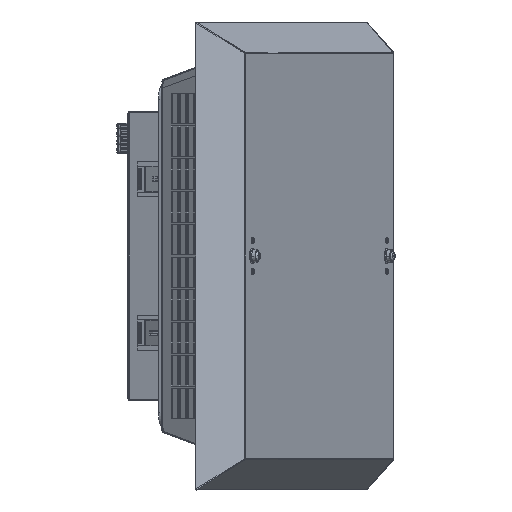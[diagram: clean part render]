
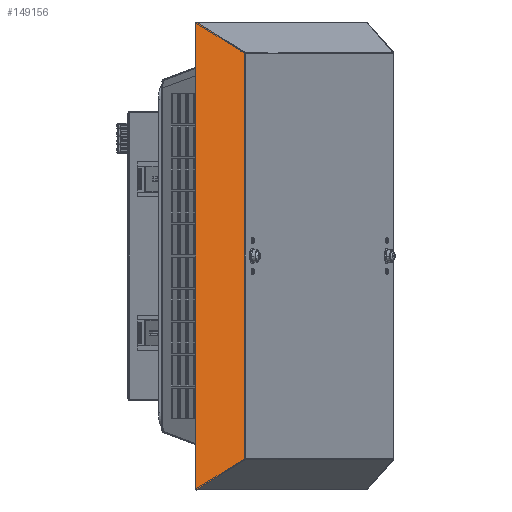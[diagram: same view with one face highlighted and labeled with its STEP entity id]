
A CAD part, front view. The second image highlights one B-rep face of the part: STEP entity #149156.
In plain terms, the highlighted planar face has unit normal (0.268, -0.963, 0) as drawn and (0.799, 0.602, 0) by its records, which use the part's own axes.
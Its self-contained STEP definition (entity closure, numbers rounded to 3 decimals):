
#147836=DIRECTION('',(0.,0.,1.));
#147837=VECTOR('',#147836,398.653);
#147838=CARTESIAN_POINT('',(198.958,39.204,
-199.326));
#147839=LINE('',#147838,#147837);
#147856=CARTESIAN_POINT('',(198.958,39.204,
-199.326));
#147858=DIRECTION('',(-0.516,0.684,-0.516));
#147859=VECTOR('',#147858,56.69);
#147860=CARTESIAN_POINT('',(228.19,0.412,
228.558));
#147861=LINE('',#147860,#147859);
#147862=DIRECTION('',(0.516,-0.684,-0.516));
#147863=VECTOR('',#147862,56.69);
#147864=CARTESIAN_POINT('',(198.958,39.204,
-199.326));
#147865=LINE('',#147864,#147863);
#147866=DIRECTION('',(0.31,-0.412,0.857));
#147867=VECTOR('',#147866,1.);
#147868=CARTESIAN_POINT('',(228.19,0.412,
-228.558));
#147869=LINE('',#147868,#147867);
#147870=DIRECTION('',(-0.31,0.412,0.857));
#147871=VECTOR('',#147870,1.);
#147872=CARTESIAN_POINT('',(228.5,0.,
227.701));
#147873=LINE('',#147872,#147871);
#147898=DIRECTION('',(0.,0.,-1.));
#147899=VECTOR('',#147898,455.403);
#147900=CARTESIAN_POINT('',(228.5,0.,
227.701));
#147901=LINE('',#147900,#147899);
#148325=VERTEX_POINT('',#147856);
#148327=CARTESIAN_POINT('',(198.958,39.204,
199.326));
#148328=VERTEX_POINT('',#148327);
#148329=CARTESIAN_POINT('',(228.19,0.412,
228.558));
#148330=VERTEX_POINT('',#148329);
#148331=CARTESIAN_POINT('',(228.19,0.412,
-228.558));
#148332=VERTEX_POINT('',#148331);
#148333=CARTESIAN_POINT('',(228.5,0.,
-227.701));
#148334=VERTEX_POINT('',#148333);
#148335=CARTESIAN_POINT('',(228.5,0.,
227.701));
#148336=VERTEX_POINT('',#148335);
#149138=CARTESIAN_POINT('',(-54.53,375.594,114.25));
#149139=DIRECTION('',(0.799,0.602,0.));
#149140=DIRECTION('',(-0.602,0.799,0.));
#149141=AXIS2_PLACEMENT_3D('',#149138,#149139,#149140);
#149142=PLANE('',#149141);
#149144=ORIENTED_EDGE('',*,*,#149143,.T.);
#149145=ORIENTED_EDGE('',*,*,#149129,.F.);
#149147=ORIENTED_EDGE('',*,*,#149146,.T.);
#149149=ORIENTED_EDGE('',*,*,#149148,.T.);
#149151=ORIENTED_EDGE('',*,*,#149150,.F.);
#149153=ORIENTED_EDGE('',*,*,#149152,.T.);
#149154=EDGE_LOOP('',(#149144,#149145,#149147,#149149,#149151,#149153));
#149155=FACE_OUTER_BOUND('',#149154,.F.);
#149129=EDGE_CURVE('',#148325,#148328,#147839,.T.);
#149143=EDGE_CURVE('',#148330,#148328,#147861,.T.);
#149146=EDGE_CURVE('',#148325,#148332,#147865,.T.);
#149148=EDGE_CURVE('',#148332,#148334,#147869,.T.);
#149150=EDGE_CURVE('',#148336,#148334,#147901,.T.);
#149152=EDGE_CURVE('',#148336,#148330,#147873,.T.);
#149156=ADVANCED_FACE('',(#149155),#149142,.T.);
